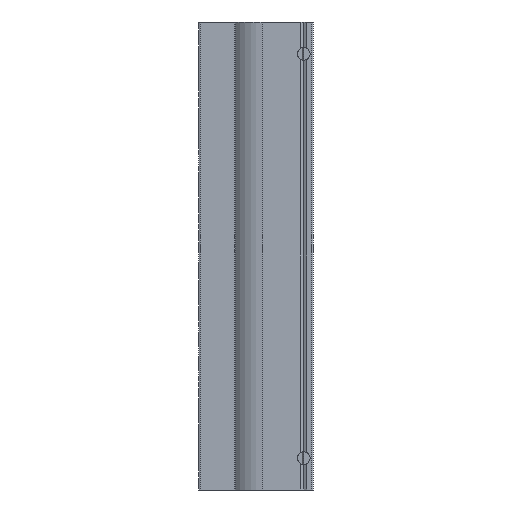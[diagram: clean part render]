
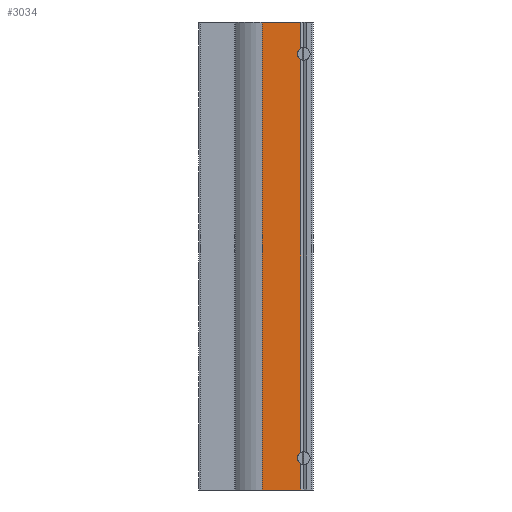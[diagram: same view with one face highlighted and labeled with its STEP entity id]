
A CAD part, left-side view. The second image highlights one B-rep face of the part: STEP entity #3034.
In plain terms, the highlighted planar face has unit normal (-1, 0, 0).
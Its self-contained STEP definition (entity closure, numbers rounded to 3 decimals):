
#51=LINE('',#4685,#243);
#52=LINE('',#4687,#244);
#53=LINE('',#4689,#245);
#54=LINE('',#4691,#246);
#55=LINE('',#4692,#247);
#56=LINE('',#4693,#248);
#243=VECTOR('',#3711,8.197);
#244=VECTOR('',#3712,12.134);
#245=VECTOR('',#3713,147.);
#246=VECTOR('',#3714,12.134);
#247=VECTOR('',#3715,8.197);
#248=VECTOR('',#3716,123.394);
#418=PLANE('',#3258);
#698=FACE_OUTER_BOUND('',#884,.T.);
#884=EDGE_LOOP('',(#2169,#2170,#2171,#2172,#2173,#2174,#2175,#2176));
#1185=CIRCLE('',#3220,2.);
#1192=CIRCLE('',#3237,2.);
#1359=VERTEX_POINT('',#4549);
#1363=VERTEX_POINT('',#4557);
#1375=VERTEX_POINT('',#4592);
#1379=VERTEX_POINT('',#4600);
#1405=VERTEX_POINT('',#4684);
#1406=VERTEX_POINT('',#4686);
#1407=VERTEX_POINT('',#4688);
#1408=VERTEX_POINT('',#4690);
#1677=EDGE_CURVE('',#1359,#1363,#1185,.T.);
#1693=EDGE_CURVE('',#1375,#1379,#1192,.T.);
#1730=EDGE_CURVE('',#1363,#1405,#51,.T.);
#1731=EDGE_CURVE('',#1405,#1406,#52,.T.);
#1732=EDGE_CURVE('',#1407,#1406,#53,.T.);
#1733=EDGE_CURVE('',#1407,#1408,#54,.T.);
#1734=EDGE_CURVE('',#1408,#1375,#55,.T.);
#1735=EDGE_CURVE('',#1379,#1359,#56,.T.);
#2169=ORIENTED_EDGE('',*,*,#1677,.T.);
#2170=ORIENTED_EDGE('',*,*,#1730,.T.);
#2171=ORIENTED_EDGE('',*,*,#1731,.T.);
#2172=ORIENTED_EDGE('',*,*,#1732,.F.);
#2173=ORIENTED_EDGE('',*,*,#1733,.T.);
#2174=ORIENTED_EDGE('',*,*,#1734,.T.);
#2175=ORIENTED_EDGE('',*,*,#1693,.T.);
#2176=ORIENTED_EDGE('',*,*,#1735,.T.);
#3034=ADVANCED_FACE('',(#698),#418,.T.);
#3220=AXIS2_PLACEMENT_3D('',#4559,#3608,#3609);
#3237=AXIS2_PLACEMENT_3D('',#4602,#3642,#3643);
#3258=AXIS2_PLACEMENT_3D('',#4683,#3709,#3710);
#3608=DIRECTION('center_axis',(1.,0.,0.));
#3609=DIRECTION('ref_axis',(0.,0.,1.));
#3642=DIRECTION('center_axis',(1.,0.,0.));
#3643=DIRECTION('ref_axis',(0.,0.,1.));
#3709=DIRECTION('center_axis',(-1.,0.,0.));
#3710=DIRECTION('ref_axis',(0.,0.,1.));
#3711=DIRECTION('',(0.,0.,1.));
#3712=DIRECTION('',(0.,1.,0.));
#3713=DIRECTION('',(0.,0.,1.));
#3714=DIRECTION('',(0.,-1.,0.));
#3715=DIRECTION('',(0.,0.,1.));
#3716=DIRECTION('',(0.,0.,1.));
#4549=CARTESIAN_POINT('',(-36.,3.866,61.697));
#4557=CARTESIAN_POINT('',(-36.,3.866,65.303));
#4559=CARTESIAN_POINT('Origin',(-36.,3.,63.5));
#4592=CARTESIAN_POINT('',(-36.,3.866,-65.303));
#4600=CARTESIAN_POINT('',(-36.,3.866,-61.697));
#4602=CARTESIAN_POINT('Origin',(-36.,3.,-63.5));
#4683=CARTESIAN_POINT('Origin',(-36.,3.866,0.));
#4684=CARTESIAN_POINT('',(-36.,3.866,73.5));
#4685=CARTESIAN_POINT('',(-36.,3.866,0.));
#4686=CARTESIAN_POINT('',(-36.,16.,73.5));
#4687=CARTESIAN_POINT('',(-36.,16.,73.5));
#4688=CARTESIAN_POINT('',(-36.,16.,-73.5));
#4689=CARTESIAN_POINT('',(-36.,16.,0.));
#4690=CARTESIAN_POINT('',(-36.,3.866,-73.5));
#4691=CARTESIAN_POINT('',(-36.,16.,-73.5));
#4692=CARTESIAN_POINT('',(-36.,3.866,0.));
#4693=CARTESIAN_POINT('',(-36.,3.866,0.));
